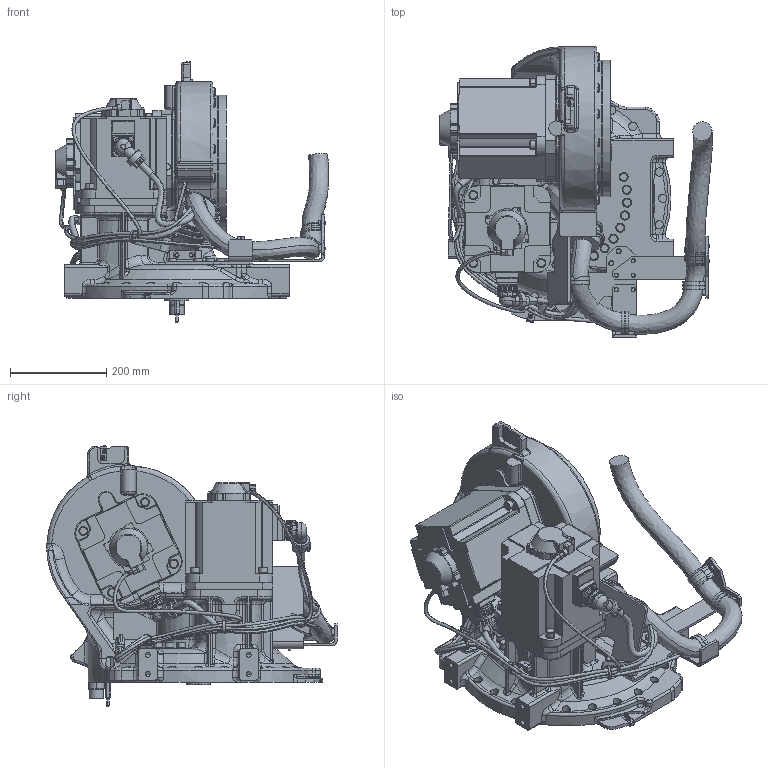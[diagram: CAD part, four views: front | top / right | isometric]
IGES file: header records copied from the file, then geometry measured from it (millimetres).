
Start section:  PTC IGES file: s_axis_gp20hl.igs
Global section: file name: s_axis_gp20hl.igs; native system: Creo Parametric by Parametric Technology Corporation; preprocessor: 2015030; author: ip-naka; organization: Unknown; date: 20190410.110640; units: millimetre
Bounding box: 568 x 604 x 541.1 mm (x, y, z)
Volume: 38722912.2 mm3; surface area: 1966737.6 mm2
Topology: 2 solids, 28 shells, 3341 faces, 8691 edges, 5477 vertices
Faces by surface type: revolution 1675, bspline 1664, extrusion 2
